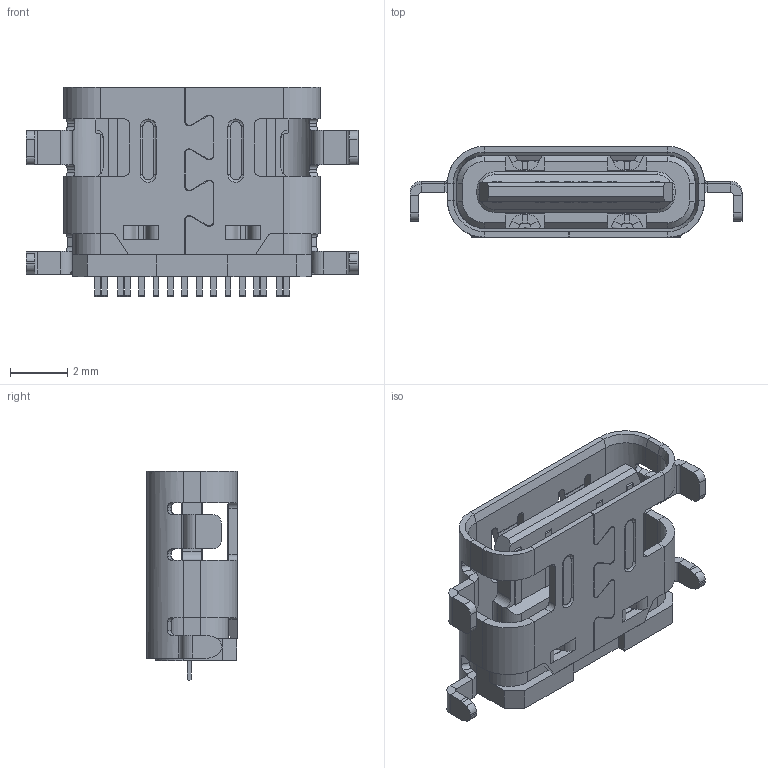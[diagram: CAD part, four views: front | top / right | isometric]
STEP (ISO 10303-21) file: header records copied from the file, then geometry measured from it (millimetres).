
FILE_DESCRIPTION((''),'2;1');
FILE_NAME('1-63D0001','2022-08-08T11:33:21',('asus'),(''),'CREO PARAMETRIC BY PTC INC, 2020053','CREO PARAMETRIC BY PTC INC, 2020053','');
FILE_SCHEMA(('AUTOMOTIVE_DESIGN { 1 0 10303 214 1 1 1 1 }'));
Length unit declared in the file: millimetre
Products named in the file (1): 1-63D0001
Bounding box: 11.55 x 3.16 x 7.28 mm (x, y, z)
Volume: 92.7 mm3; surface area: 420.6 mm2
Topology: 1 solids, 1 shells, 778 faces, 2065 edges, 1290 vertices
Faces by surface type: plane 570, cylinder 178, cone 18, torus 8, bspline 4
Entity records: 26065 total; most frequent: CARTESIAN_POINT 4634, ORIENTED_EDGE 4130, DIRECTION 3903, EDGE_CURVE 2065, VECTOR 1615, LINE 1615, VERTEX_POINT 1290, AXIS2_PLACEMENT_3D 1144
